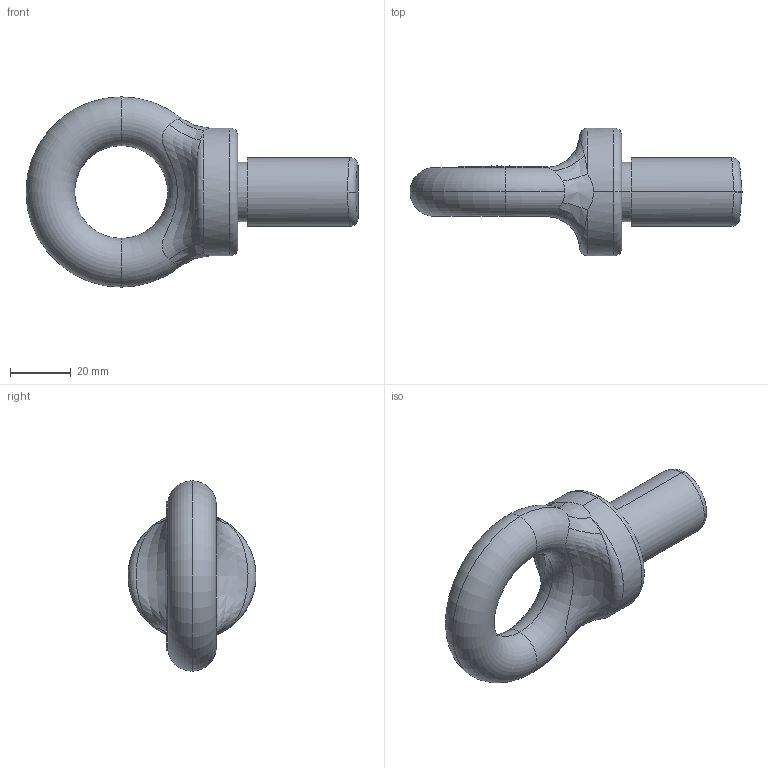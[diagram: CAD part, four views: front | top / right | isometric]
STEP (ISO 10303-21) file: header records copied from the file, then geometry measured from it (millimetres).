
FILE_DESCRIPTION (( 'STEP AP203' ), '1' );
FILE_NAME ('EBB750.STEP', '2010-01-11T00:36:38', ( ' ' ), ( ' ' ), 'SwSTEP 2.0', 'SolidWorks 2003240', '' );
FILE_SCHEMA (( 'CONFIG_CONTROL_DESIGN' ));
Length unit declared in the file: millimetre
Products named in the file (1): EBB750
Bounding box: 109.04 x 42 x 62.5 mm (x, y, z)
Volume: 63200.9 mm3; surface area: 13130.9 mm2
Topology: 1 solids, 1 shells, 239 faces, 629 edges, 412 vertices
Faces by surface type: plane 135, bspline 60, torus 30, cylinder 10, sphere 4
Entity records: 24408 total; most frequent: CARTESIAN_POINT 19339, ORIENTED_EDGE 1258, DIRECTION 649, EDGE_CURVE 629, VERTEX_POINT 412, B_SPLINE_CURVE_WITH_KNOTS 382, EDGE_LOOP 261, FACE_OUTER_BOUND 239
